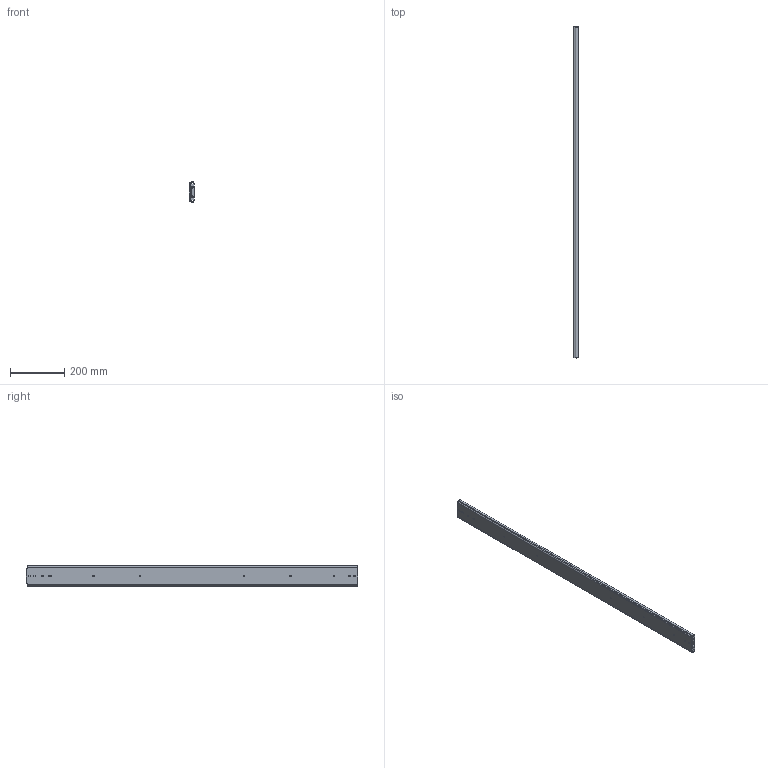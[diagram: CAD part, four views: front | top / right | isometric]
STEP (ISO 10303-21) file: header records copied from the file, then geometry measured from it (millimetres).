
FILE_DESCRIPTION(/* description */ ('Unknown'),/* implementation_level */ '2;1');
FILE_NAME(/* name */ '76J01-48 close',/* time_stamp */ '2024-07-30T09:34:40+08:00',/* author */ ('Unknown'),/* organization */ ('Unknown'),/* preprocessor_version */ 'ST-DEVELOPER v18.104',/* originating_system */ 'Solid Edge',/* authorisation */ 'Unknown');
FILE_SCHEMA (('AUTOMOTIVE_DESIGN {1 0 10303 214 3 1 1}'));
Length unit declared in the file: millimetre
Products named in the file (4): 76J01-48 close; 76J01 48 inch  內; 76J01 48 ¦Tœ; 76J01 48 嬪
Assembly tree (3 placements, depth 2):
  76J01-48 close
    76J01 48 inch  內
    76J01 48 ¦Tœ
    76J01 48 嬪
Bounding box: 19.3 x 1219.2 x 76.76 mm (x, y, z)
Volume: 961997.2 mm3; surface area: 598373.9 mm2
Topology: 3 solids, 3 shells, 199 faces, 614 edges, 415 vertices
Faces by surface type: plane 104, cylinder 95
Full cylindrical faces by diameter (mm): 5.2 x15, 7.1 x2
Entity records: 7307 total; most frequent: CARTESIAN_POINT 1187, DIRECTION 1174, ORIENTED_EDGE 1160, EDGE_CURVE 580, VERTEX_POINT 398, AXIS2_PLACEMENT_3D 393, LINE 388, VECTOR 388
